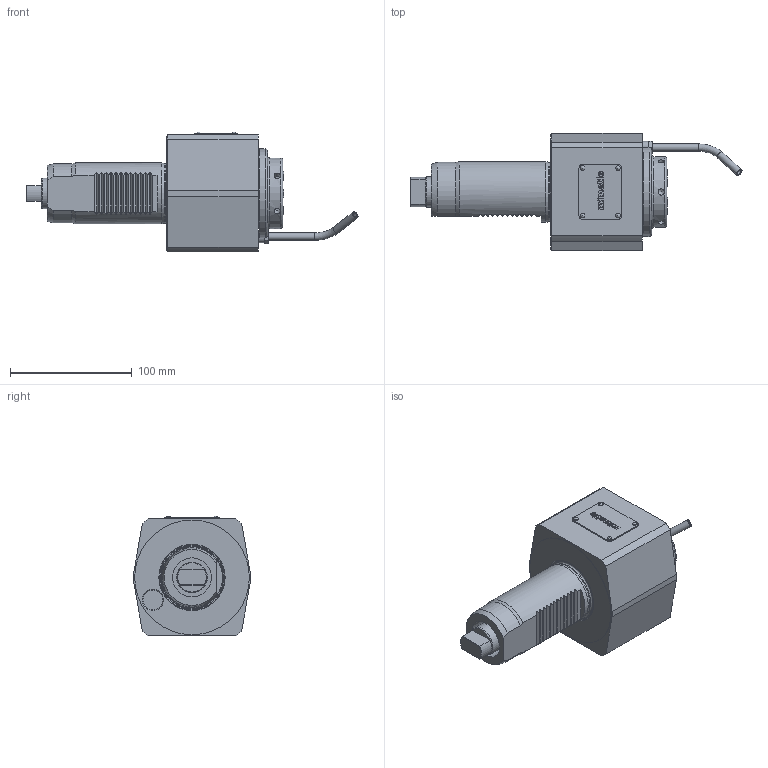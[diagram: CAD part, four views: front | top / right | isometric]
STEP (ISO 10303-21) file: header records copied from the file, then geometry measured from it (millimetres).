
FILE_DESCRIPTION(/* description */ (''),/* implementation_level */ '2;1');
FILE_NAME(/* name */ '123930',/* time_stamp */ '2020-07-02T07:50:32+02:00',/* author */ (''),/* organization */ (''),/* preprocessor_version */ 'ST-DEVELOPER v16.5',/* originating_system */ 'HiCAD 2017 2201.0 Build 268',/* authorisation */ '');
FILE_SCHEMA (('AUTOMOTIVE_DESIGN { 1 0 10303 214 1 1 1 1 }'));
Length unit declared in the file: millimetre
Products named in the file (29): Root; 123930_AGW-EM-A-50-ER32-E; Leeres Teil; VDI50_EMAG_200; SNIA004; SNIA005; SNIA006; SPINDEL_201; 113692_Kerbnagel 2x4_380; 00011481_385; KZF_M10_3D; 112485_Überwurfschraube_352*; TORUS_1_210*; 112977_Spannmutter ER32 HI_QERAX; Ύ҂; 003_000X
Assembly tree (28 placements, depth 5):
  Root
    123930_AGW-EM-A-50-ER32-E
      Leeres Teil
      VDI50_EMAG_200
        SNIA004
        SNIA005
        SNIA004
        SNIA005
        SNIA004
        SNIA005
        SNIA004
        SNIA005
        SNIA004
        SNIA005
        SNIA006
      SPINDEL_201
      Leeres Teil
        113692_Kerbnagel 2x4_380
        113692_Kerbnagel 2x4_380
        113692_Kerbnagel 2x4_380
        113692_Kerbnagel 2x4_380
        00011481_385
      KZF_M10_3D
        112485_Überwurfschraube_352*
          (unnamed)
        TORUS_1_210*
      112977_Spannmutter ER32 HI_QERAX
        Ύ҂
        003_000X
Bounding box: 272.17 x 96 x 98.3 mm (x, y, z)
Volume: 833981.7 mm3; surface area: 119445.1 mm2
Topology: 14 solids, 14 shells, 398 faces, 1002 edges, 657 vertices
Faces by surface type: plane 197, cylinder 136, cone 21, torus 20, bspline 20, sphere 4
Full cylindrical faces by diameter (mm): 2 x4, 2.2 x4, 4 x2, 5.1 x6, 6 x3, 8.773 x2, 10 x1, 16.3 x1, 20 x1, 23.5 x1, 25 x1, 27 x1, 29 x1, 32 x1, 38.16 x2, 40 x2, 40.5 x1, 48.7 x1, 50 x2, 55 x2, 58 x1, 68 x1, 73 x1, 94 x1
Entity records: 27268 total; most frequent: CARTESIAN_POINT 9092, DIRECTION 1872, PRESENTATION_STYLE_ASSIGNMENT 1803, COLOUR_RGB 1794, DRAUGHTING_PRE_DEFINED_CURVE_FONT 1790, CURVE_STYLE 1790, OVER_RIDING_STYLED_ITEM 1790, ORIENTED_EDGE 1790
